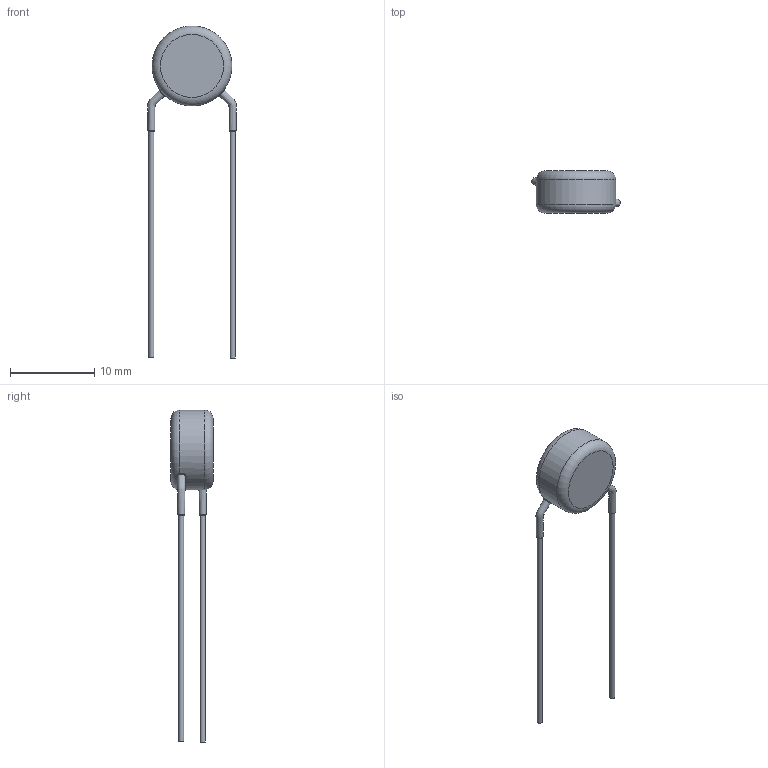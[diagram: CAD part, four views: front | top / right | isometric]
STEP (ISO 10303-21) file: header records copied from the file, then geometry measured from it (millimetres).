
FILE_DESCRIPTION(/* description */ (''),/* implementation_level */ '2;1');
FILE_NAME(/* name */ 'I:\Marketing\M6t1\3D-Models\Zchng-Werk-3\Upload for homepage\BCC neu\AY2 Straight\Step\AY2222#35Y5US63L0.stp',/* time_stamp */ '2023-07-13T14:13:28+02:00',/* author */ ('truediger'),/* organization */ (''),/* preprocessor_version */ 'ST-DEVELOPER v18',/* originating_system */ 'Autodesk Inventor 2020',/* authorisation */ '');
FILE_SCHEMA (('AUTOMOTIVE_DESIGN { 1 0 10303 214 3 1 1 }'));
Length unit declared in the file: millimetre
Products named in the file (1): Bauteil2
Bounding box: 10.53 x 5 x 39.5 mm (x, y, z)
Volume: 363.6 mm3; surface area: 393.7 mm2
Topology: 1 solids, 1 shells, 19 faces, 43 edges, 28 vertices
Faces by surface type: bspline 8, plane 6, cylinder 3, torus 2
Full cylindrical faces by diameter (mm): 0.6 x2, 9.5 x1
Entity records: 1590 total; most frequent: CARTESIAN_POINT 1129, ORIENTED_EDGE 86, DIRECTION 75, EDGE_CURVE 43, AXIS2_PLACEMENT_3D 36, VERTEX_POINT 28, CIRCLE 24, EDGE_LOOP 21
